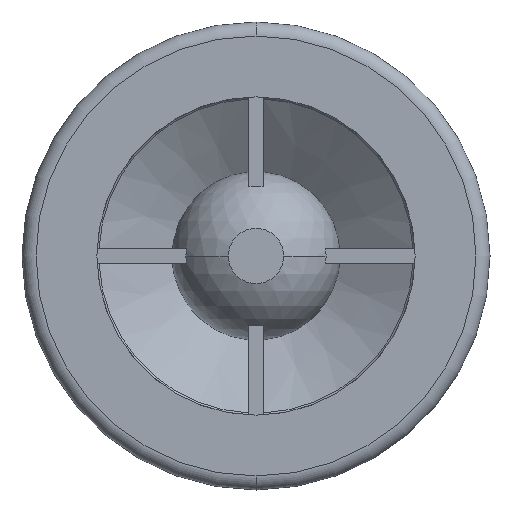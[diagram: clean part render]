
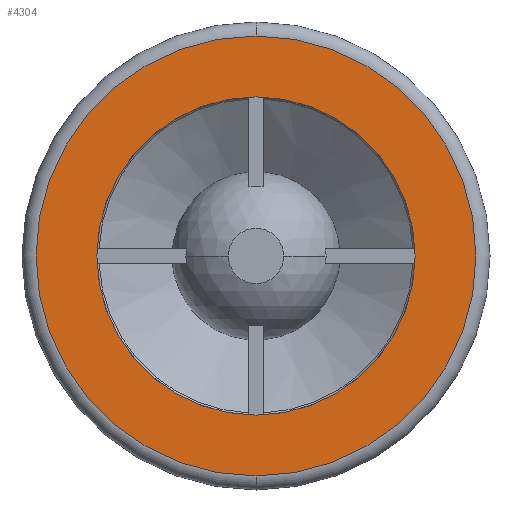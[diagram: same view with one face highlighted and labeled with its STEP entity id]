
A CAD part, front view. The second image highlights one B-rep face of the part: STEP entity #4304.
In plain terms, the highlighted planar face has unit normal (0, -1, 0).
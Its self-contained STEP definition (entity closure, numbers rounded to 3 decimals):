
#348 = EDGE_CURVE ( 'NONE', #529, #534, #2080, .T. ) ;
#384 = VERTEX_POINT ( 'NONE', #2133 ) ;
#386 = VERTEX_POINT ( 'NONE', #2132 ) ;
#387 = EDGE_CURVE ( 'NONE', #386, #384, #2130, .T. ) ;
#529 = VERTEX_POINT ( 'NONE', #2404 ) ;
#533 = EDGE_CURVE ( 'NONE', #534, #529, #2464, .T. ) ;
#534 = VERTEX_POINT ( 'NONE', #2459 ) ;
#2074 = EDGE_LOOP ( 'NONE', ( #4305, #4133 ) ) ;
#2076 = DIRECTION ( 'NONE',  ( 0., 0., -1. ) ) ;
#2077 = DIRECTION ( 'NONE',  ( 0., -1., 0. ) ) ;
#2078 = CARTESIAN_POINT ( 'NONE',  ( 0., 0., 0. ) ) ;
#2079 = AXIS2_PLACEMENT_3D ( 'NONE', #2078, #2077, #2076 ) ;
#2080 = CIRCLE ( 'NONE', #2079, 17. ) ;
#2126 = DIRECTION ( 'NONE',  ( 0., 0., 1. ) ) ;
#2127 = DIRECTION ( 'NONE',  ( 0., -1., 0. ) ) ;
#2128 = CARTESIAN_POINT ( 'NONE',  ( 0., 0., 0. ) ) ;
#2129 = AXIS2_PLACEMENT_3D ( 'NONE', #2128, #2127, #2126 ) ;
#2130 = CIRCLE ( 'NONE', #2129, 23.5 ) ;
#2132 = CARTESIAN_POINT ( 'NONE',  ( 0., 0., -23.5 ) ) ;
#2133 = CARTESIAN_POINT ( 'NONE',  ( 0., 0., 23.5 ) ) ;
#2404 = CARTESIAN_POINT ( 'NONE',  ( 0., 0., -17. ) ) ;
#2459 = CARTESIAN_POINT ( 'NONE',  ( 0., 0., 17. ) ) ;
#2460 = DIRECTION ( 'NONE',  ( 0., 0., -1. ) ) ;
#2461 = DIRECTION ( 'NONE',  ( 0., -1., 0. ) ) ;
#2462 = CARTESIAN_POINT ( 'NONE',  ( 0., 0., 0. ) ) ;
#2463 = AXIS2_PLACEMENT_3D ( 'NONE', #2462, #2461, #2460 ) ;
#2464 = CIRCLE ( 'NONE', #2463, 17. ) ;
#3984 = DIRECTION ( 'NONE',  ( 0., 0., 1. ) ) ;
#3985 = DIRECTION ( 'NONE',  ( 0., -1., 0. ) ) ;
#3986 = CARTESIAN_POINT ( 'NONE',  ( 0., 0., 0. ) ) ;
#3987 = AXIS2_PLACEMENT_3D ( 'NONE', #3986, #3985, #3984 ) ;
#3990 = DIRECTION ( 'NONE',  ( 0., 0., 1. ) ) ;
#3991 = DIRECTION ( 'NONE',  ( 0., 1., 0. ) ) ;
#3992 = CARTESIAN_POINT ( 'NONE',  ( -17., 0., 0. ) ) ;
#3993 = CIRCLE ( 'NONE', #3987, 23.5 ) ;
#3994 = AXIS2_PLACEMENT_3D ( 'NONE', #3992, #3991, #3990 ) ;
#3995 = PLANE ( 'NONE',  #3994 ) ;
#3996 = FACE_BOUND ( 'NONE', #4130, .T. ) ;
#3997 = FACE_OUTER_BOUND ( 'NONE', #2074, .T. ) ;
#4127 = ORIENTED_EDGE ( 'NONE', *, *, #533, .F. ) ;
#4129 = ORIENTED_EDGE ( 'NONE', *, *, #348, .F. ) ;
#4130 = EDGE_LOOP ( 'NONE', ( #4129, #4127 ) ) ;
#4133 = ORIENTED_EDGE ( 'NONE', *, *, #387, .T. ) ;
#4304 = ADVANCED_FACE ( 'NONE', ( #3997, #3996 ), #3995, .F. ) ;
#4305 = ORIENTED_EDGE ( 'NONE', *, *, #4308, .T. ) ;
#4308 = EDGE_CURVE ( 'NONE', #384, #386, #3993, .T. ) ;
